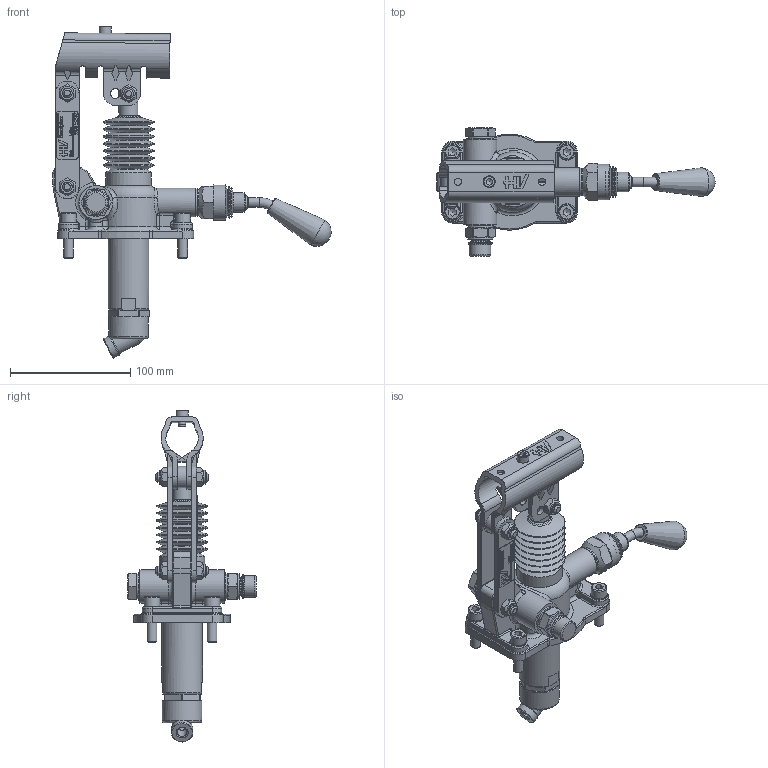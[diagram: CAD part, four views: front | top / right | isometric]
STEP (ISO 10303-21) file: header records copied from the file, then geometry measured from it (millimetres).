
FILE_DESCRIPTION((''),'2;1');
FILE_NAME('G:\HV_HYDRAULIC\AZIENDA_HV_HYDRAULIC\ARCHIVIO_DISEGNI\5_PRODOTTI_FINITI\1_POMPE_MANUALI\6051_PM_25\6051.0140_PM_25_mna-s_(HV)\6051.0140.stp','2024-02-28T12:27:43',('christian.scardovi'),(''),'Autodesk Inventor 2013','Autodesk Inventor 2013','');
FILE_SCHEMA(('AUTOMOTIVE_DESIGN { 1 0 10303 214 1 1 1 1 }'));
Length unit declared in the file: millimetre
Products named in the file (1): 6051.0140
Bounding box: 231.43 x 106.5 x 276.08 mm (x, y, z)
Volume: 424334.6 mm3; surface area: 129909.7 mm2
Topology: 3 solids, 3 shells, 1478 faces, 3693 edges, 2325 vertices
Faces by surface type: plane 716, cylinder 304, bspline 190, cone 145, torus 107, sphere 16
Full cylindrical faces by diameter (mm): 3 x2, 5 x5, 5.5 x1, 6 x4, 6.5 x2, 8 x17, 9 x2, 9.2 x1, 10 x6, 10.376 x1, 11.05 x6, 12 x5, 13 x4, 13.2 x1, 13.468 x1, 14 x4, 14.95 x2, 15 x3, 15.5 x1, 16 x4, 16.468 x1, 16.6 x1, 17.6 x1, 18 x5, 19.7 x1, 20 x2, 21 x3, 22 x2, 23 x4, 24 x3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
Entity records: 45808 total; most frequent: CARTESIAN_POINT 11735, ORIENTED_EDGE 6696, DIRECTION 6251, EDGE_CURVE 3348, VERTEX_POINT 2251, AXIS2_PLACEMENT_3D 2217, EDGE_LOOP 1883, VECTOR 1817
